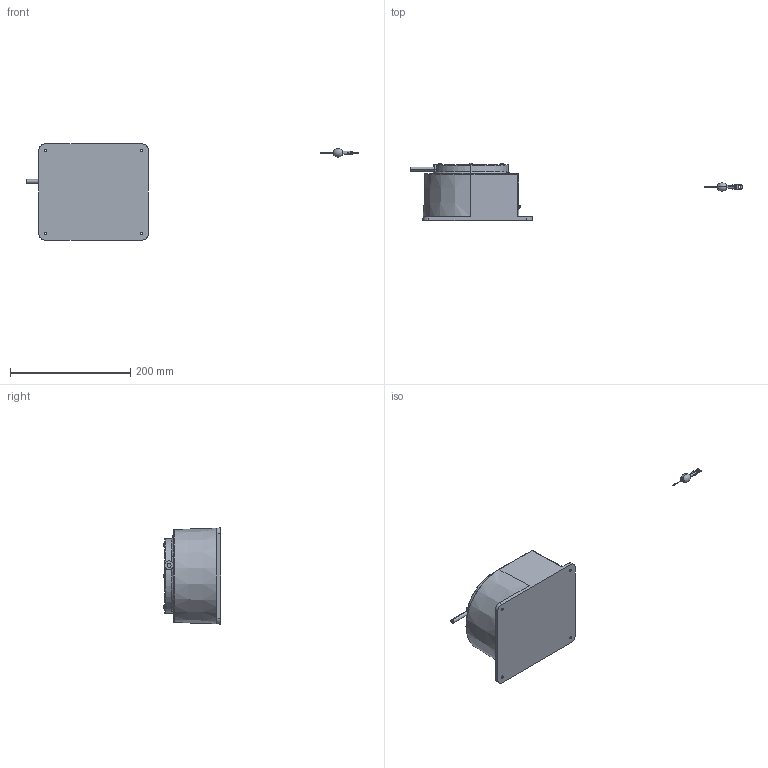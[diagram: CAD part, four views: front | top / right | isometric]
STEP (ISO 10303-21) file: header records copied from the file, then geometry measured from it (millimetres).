
FILE_DESCRIPTION (( 'STEP AP214' ), '1' );
FILE_NAME ('DL-10_Assem1.STEP', '2024-07-18T05:36:45', ( '' ), ( '' ), 'SwSTEP 2.0', 'SolidWorks 2023', '' );
FILE_SCHEMA (( 'AUTOMOTIVE_DESIGN' ));
Length unit declared in the file: millimetre
Products named in the file (8): SCREW M3 X6 MM; DL-10_Part1; DL-10_Assem1; DL-10_Part3; DL-10フック_Assem; DL-10_Part4; DL-10_Part2; DL-10_Assem0
Assembly tree (12 placements, depth 3):
  DL-10_Assem1
    DL-10_Assem0
      DL-10_Part1
      DL-10_Part2
      SCREW M3 X6 MM  x6
    DL-10フック_Assem
      DL-10_Part3
      DL-10_Part4
Bounding box: 552.74 x 95.2 x 160 mm (x, y, z)
Volume: 1950218.6 mm3; surface area: 114756.8 mm2
Topology: 11 solids, 11 shells, 264 faces, 759 edges, 525 vertices
Faces by surface type: plane 121, cylinder 65, cone 34, bspline 25, torus 19
Entity records: 5829 total; most frequent: CARTESIAN_POINT 1699, DIRECTION 853, ORIENTED_EDGE 796, EDGE_CURVE 398, AXIS2_PLACEMENT_3D 329, VERTEX_POINT 265, VECTOR 195, LINE 195
